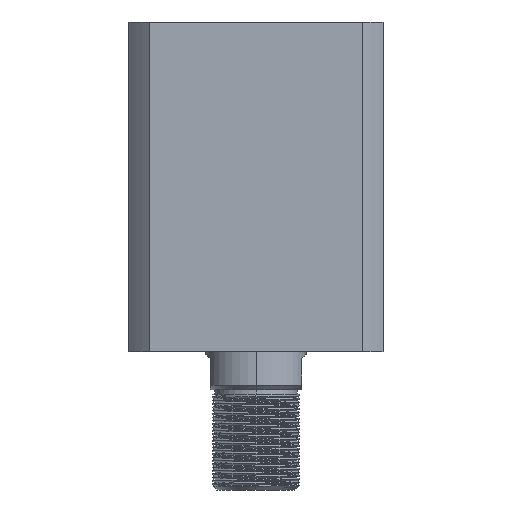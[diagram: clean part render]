
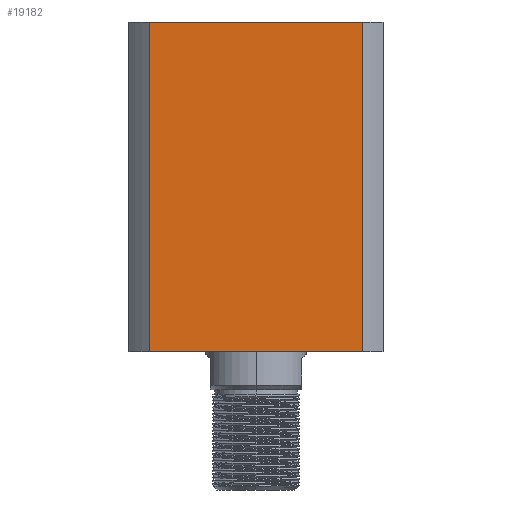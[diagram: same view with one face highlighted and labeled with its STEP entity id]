
A CAD part, front view. The second image highlights one B-rep face of the part: STEP entity #19182.
In plain terms, the highlighted planar face has unit normal (0, -1, 0) as drawn and (-1, 0, 0) by its records, which use the part's own axes.
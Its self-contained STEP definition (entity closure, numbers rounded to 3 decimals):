
#462 = LINE ( 'NONE', #16794, #4636 ) ;
#1438 = PLANE ( 'NONE',  #18502 ) ;
#1571 = EDGE_CURVE ( 'NONE', #4185, #13540, #462, .T. ) ;
#2232 = ORIENTED_EDGE ( 'NONE', *, *, #13120, .F. ) ;
#2282 = CARTESIAN_POINT ( 'NONE',  ( -57., 47.971, 148. ) ) ;
#3227 = ORIENTED_EDGE ( 'NONE', *, *, #17431, .F. ) ;
#3302 = LINE ( 'NONE', #8146, #20123 ) ;
#4094 = DIRECTION ( 'NONE',  ( 0., -1., 0. ) ) ;
#4185 = VERTEX_POINT ( 'NONE', #17825 ) ;
#4636 = VECTOR ( 'NONE', #8957, 1000. ) ;
#4668 = CARTESIAN_POINT ( 'NONE',  ( -57., 57., 148. ) ) ;
#5522 = VECTOR ( 'NONE', #14296, 1000. ) ;
#6253 = DIRECTION ( 'NONE',  ( 1., 0., 0. ) ) ;
#7783 = FACE_OUTER_BOUND ( 'NONE', #15709, .T. ) ;
#8146 = CARTESIAN_POINT ( 'NONE',  ( -57., 47.971, -152. ) ) ;
#8957 = DIRECTION ( 'NONE',  ( 0., -1., 0. ) ) ;
#10314 = LINE ( 'NONE', #14814, #14498 ) ;
#11656 = CARTESIAN_POINT ( 'NONE',  ( -57., -47.971, 0. ) ) ;
#11915 = VERTEX_POINT ( 'NONE', #2282 ) ;
#13120 = EDGE_CURVE ( 'NONE', #14939, #13540, #18654, .T. ) ;
#13540 = VERTEX_POINT ( 'NONE', #11656 ) ;
#14229 = EDGE_CURVE ( 'NONE', #4185, #11915, #3302, .T. ) ;
#14296 = DIRECTION ( 'NONE',  ( 0., 0., -1. ) ) ;
#14498 = VECTOR ( 'NONE', #4094, 1000. ) ;
#14814 = CARTESIAN_POINT ( 'NONE',  ( -57., 57., 148. ) ) ;
#14939 = VERTEX_POINT ( 'NONE', #19871 ) ;
#15709 = EDGE_LOOP ( 'NONE', ( #16815, #17791, #2232, #3227 ) ) ;
#16794 = CARTESIAN_POINT ( 'NONE',  ( -57., 57., 0. ) ) ;
#16815 = ORIENTED_EDGE ( 'NONE', *, *, #14229, .F. ) ;
#17321 = DIRECTION ( 'NONE',  ( 0., 1., 0. ) ) ;
#17431 = EDGE_CURVE ( 'NONE', #11915, #14939, #10314, .T. ) ;
#17634 = DIRECTION ( 'NONE',  ( 0., 0., 1. ) ) ;
#17791 = ORIENTED_EDGE ( 'NONE', *, *, #1571, .T. ) ;
#17825 = CARTESIAN_POINT ( 'NONE',  ( -57., 47.971, 0. ) ) ;
#18502 = AXIS2_PLACEMENT_3D ( 'NONE', #4668, #6253, #17321 ) ;
#18654 = LINE ( 'NONE', #19092, #5522 ) ;
#19092 = CARTESIAN_POINT ( 'NONE',  ( -57., -47.971, -152. ) ) ;
#19182 = ADVANCED_FACE ( 'NONE', ( #7783 ), #1438, .F. ) ;
#19871 = CARTESIAN_POINT ( 'NONE',  ( -57., -47.971, 148. ) ) ;
#20123 = VECTOR ( 'NONE', #17634, 1000. ) ;
